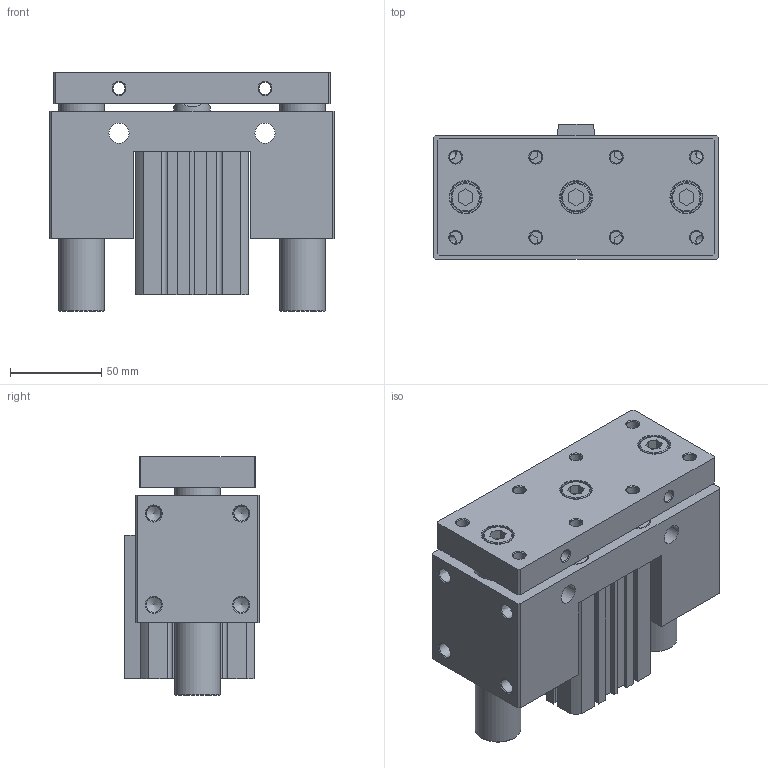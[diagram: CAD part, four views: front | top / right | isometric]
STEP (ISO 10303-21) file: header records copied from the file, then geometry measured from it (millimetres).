
FILE_DESCRIPTION((''),'2;1');
FILE_NAME('I:\3D電子目錄\氣缸\JCB\JCB\JCB50-S\JCB50x40-S.stp','2007-08-30T16:30:52',('Administrator'),(''),'Autodesk Inventor 11','Autodesk Inventor 11','');
FILE_SCHEMA(('AUTOMOTIVE_DESIGN { 1 0 10303 214 1 1 1 1 }'));
Length unit declared in the file: millimetre
Products named in the file (1): JCB50
Bounding box: 156 x 74 x 130.5 mm (x, y, z)
Volume: 953237.8 mm3; surface area: 173794 mm2
Topology: 3 solids, 3 shells, 328 faces, 786 edges, 510 vertices
Faces by surface type: plane 190, cylinder 58, cone 45, bspline 31, torus 4
Full cylindrical faces by diameter (mm): 2.7 x2, 6.8 x4, 8.376 x4, 11 x8, 13 x4, 14 x4, 16 x3, 17.5 x3, 20 x1, 21 x1, 25 x2, 28 x2, 37 x1, 38 x1, 52 x4, 55 x2
Entity records: 9390 total; most frequent: CARTESIAN_POINT 2294, DIRECTION 1434, ORIENTED_EDGE 1264, EDGE_CURVE 632, EDGE_LOOP 536, AXIS2_PLACEMENT_3D 512, VERTEX_POINT 480, VECTOR 410
